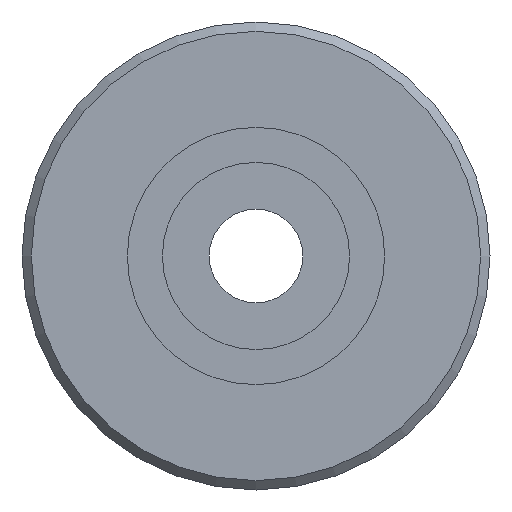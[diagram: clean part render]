
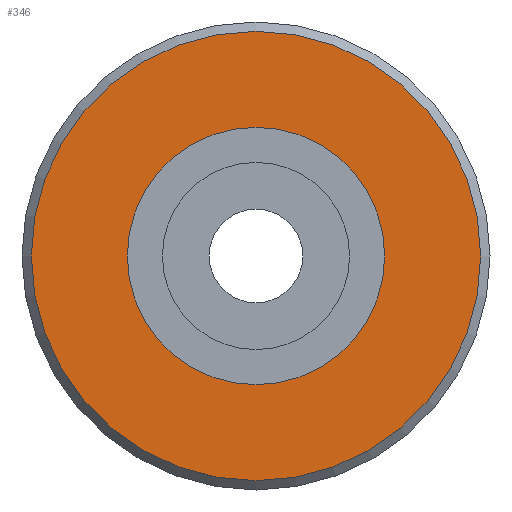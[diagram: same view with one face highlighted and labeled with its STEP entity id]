
A CAD part, left-side view. The second image highlights one B-rep face of the part: STEP entity #346.
In plain terms, the highlighted planar face has unit normal (-1, 0, 0).
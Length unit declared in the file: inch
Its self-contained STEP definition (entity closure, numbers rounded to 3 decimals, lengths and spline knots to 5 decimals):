
#319=CARTESIAN_POINT('',(11.,16.8,0.));
#320=VERTEX_POINT('',#319);
#321=CARTESIAN_POINT('',(11.,12.,0.));
#322=DIRECTION('',(1.,0.,0.));
#323=DIRECTION('',(0.,1.,0.));
#324=AXIS2_PLACEMENT_3D('',#321,#322,#323);
#325=CIRCLE('',#324,4.8);
#326=EDGE_CURVE('',#320,#320,#325,.T.);
#327=ORIENTED_EDGE('',*,*,#326,.F.);
#328=EDGE_LOOP('',(#327));
#329=FACE_OUTER_BOUND('',#328,.T.);
#330=CARTESIAN_POINT('',(11.,14.75,0.));
#331=VERTEX_POINT('',#330);
#332=CARTESIAN_POINT('',(11.,12.,0.));
#333=DIRECTION('',(1.,0.,0.));
#334=DIRECTION('',(0.,1.,0.));
#335=AXIS2_PLACEMENT_3D('',#332,#333,#334);
#336=CIRCLE('',#335,2.75);
#337=EDGE_CURVE('',#331,#331,#336,.T.);
#338=ORIENTED_EDGE('',*,*,#337,.T.);
#339=EDGE_LOOP('',(#338));
#340=FACE_BOUND('',#339,.T.);
#341=CARTESIAN_POINT('',(11.,15.775,0.));
#342=DIRECTION('',(-1.,0.,0.));
#343=DIRECTION('',(0.,-1.,0.));
#344=AXIS2_PLACEMENT_3D('',#341,#342,#343);
#345=PLANE('',#344);
#346=ADVANCED_FACE('',(#329,#340),#345,.T.);
